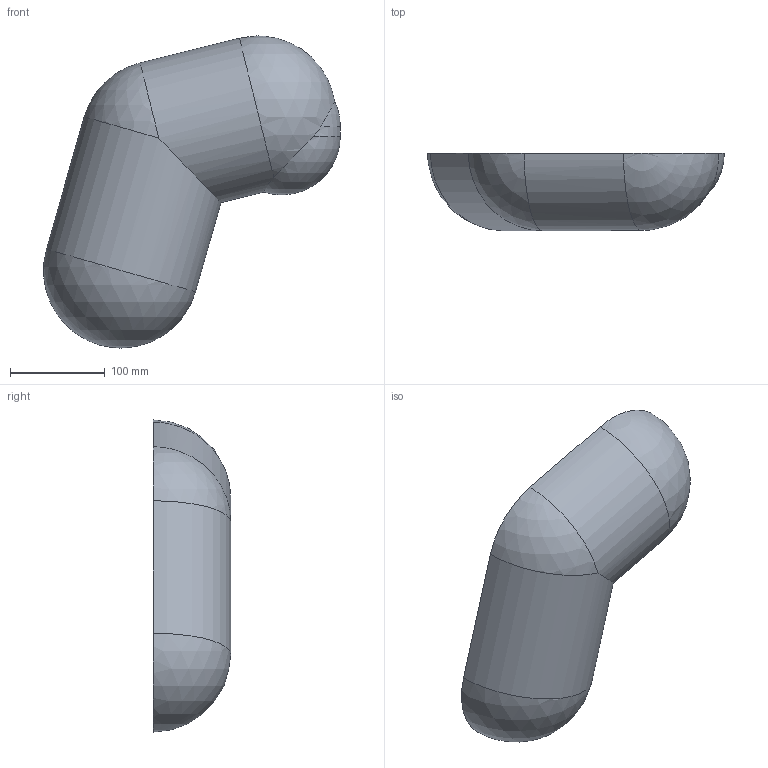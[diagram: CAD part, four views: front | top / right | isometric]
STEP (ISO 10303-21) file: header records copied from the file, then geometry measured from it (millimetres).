
FILE_DESCRIPTION(('Open CASCADE Model'),'2;1');
FILE_NAME('Open CASCADE Shape Model','2026-11-10T19:16:40',('Author'),( 'Open CASCADE'),'Open CASCADE STEP processor 8.0','Open CASCADE 8.0' ,'Unknown');
FILE_SCHEMA(('AUTOMOTIVE_DESIGN { 1 0 10303 214 1 1 1 1 }'));
Length unit declared in the file: millimetre
Products named in the file (1): Open CASCADE STEP translator 8.0 1
Bounding box: 313.79 x 81.8 x 330 mm (x, y, z)
Volume: 212600.2 mm3; surface area: 214637.1 mm2
Topology: 1 solids, 1 shells, 17 faces, 42 edges, 28 vertices
Faces by surface type: sphere 10, cylinder 6, plane 1
Entity records: 4281 total; most frequent: CARTESIAN_POINT 3497, DIRECTION 128, ORIENTED_EDGE 84, PCURVE 84, DEFINITIONAL_REPRESENTATION 84, B_SPLINE_CURVE_WITH_KNOTS 62, AXIS2_PLACEMENT_3D 46, EDGE_CURVE 42
